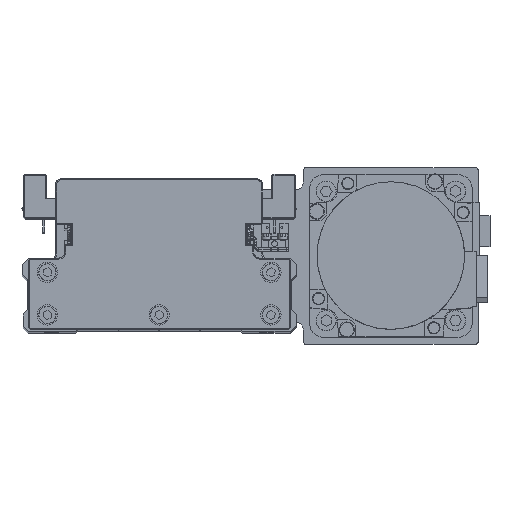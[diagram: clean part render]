
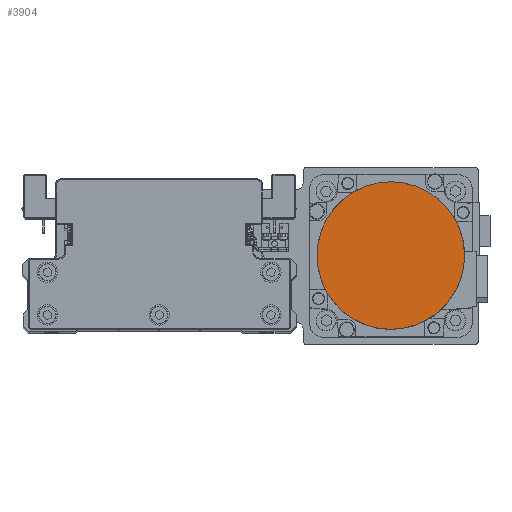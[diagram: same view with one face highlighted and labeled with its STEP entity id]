
A CAD part, top view. The second image highlights one B-rep face of the part: STEP entity #3904.
In plain terms, the highlighted planar face has unit normal (0, 0, 1) as drawn and (0, 0, -1) by its records, which use the part's own axes.
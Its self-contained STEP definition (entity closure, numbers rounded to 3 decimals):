
#2346 = DIRECTION ( 'NONE',  ( 1., 0., 0. ) ) ;
#3653 = DIRECTION ( 'NONE',  ( 0., -1., 0. ) ) ;
#3904 = ADVANCED_FACE ( 'NONE', ( #32864 ), #5363, .F. ) ;
#5363 = PLANE ( 'NONE',  #29256 ) ;
#6559 = CARTESIAN_POINT ( 'NONE',  ( 0., -36.3, -122.2 ) ) ;
#10965 = AXIS2_PLACEMENT_3D ( 'NONE', #18918, #31167, #3653 ) ;
#12477 = CARTESIAN_POINT ( 'NONE',  ( 0., 0., -122.2 ) ) ;
#12933 = ORIENTED_EDGE ( 'NONE', *, *, #30142, .F. ) ;
#14852 = CARTESIAN_POINT ( 'NONE',  ( 0., 36.3, -122.2 ) ) ;
#16035 = AXIS2_PLACEMENT_3D ( 'NONE', #12477, #24722, #36988 ) ;
#17587 = CARTESIAN_POINT ( 'NONE',  ( 0., 0., -122.2 ) ) ;
#18243 = VERTEX_POINT ( 'NONE', #14852 ) ;
#18918 = CARTESIAN_POINT ( 'NONE',  ( 0., 0., -122.2 ) ) ;
#24722 = DIRECTION ( 'NONE',  ( 0., 0., 1. ) ) ;
#28243 = CIRCLE ( 'NONE', #16035, 36.3 ) ;
#28286 = CIRCLE ( 'NONE', #10965, 36.3 ) ;
#28826 = ORIENTED_EDGE ( 'NONE', *, *, #35188, .F. ) ;
#29256 = AXIS2_PLACEMENT_3D ( 'NONE', #17587, #29852, #2346 ) ;
#29785 = VERTEX_POINT ( 'NONE', #6559 ) ;
#29852 = DIRECTION ( 'NONE',  ( 0., 0., 1. ) ) ;
#30142 = EDGE_CURVE ( 'NONE', #18243, #29785, #28243, .T. ) ;
#31167 = DIRECTION ( 'NONE',  ( 0., 0., 1. ) ) ;
#32864 = FACE_OUTER_BOUND ( 'NONE', #34447, .T. ) ;
#34447 = EDGE_LOOP ( 'NONE', ( #12933, #28826 ) ) ;
#35188 = EDGE_CURVE ( 'NONE', #29785, #18243, #28286, .T. ) ;
#36988 = DIRECTION ( 'NONE',  ( 0., 1., 0. ) ) ;
